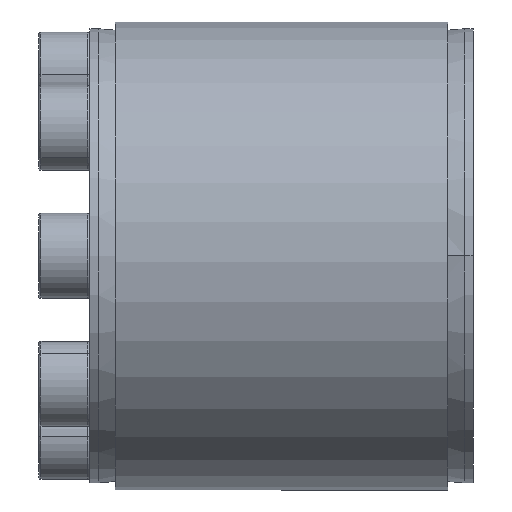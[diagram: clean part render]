
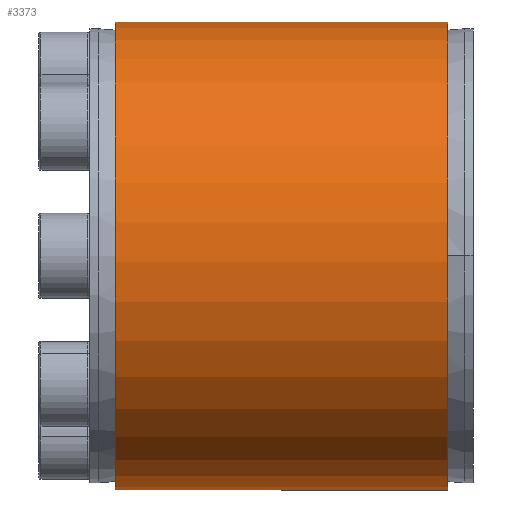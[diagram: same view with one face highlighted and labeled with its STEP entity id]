
A CAD part, front view. The second image highlights one B-rep face of the part: STEP entity #3373.
In plain terms, the highlighted cylindrical face has radius 27.5 mm (diameter 55 mm), a partial arc.
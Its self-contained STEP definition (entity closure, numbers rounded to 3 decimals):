
#30 = CARTESIAN_POINT ( 'NONE',  ( -17.268, -1.5, 27.459 ) ) ;
#105 = EDGE_LOOP ( 'NONE', ( #4963, #4339, #4691, #4796 ) ) ;
#199 = LINE ( 'NONE', #647, #1953 ) ;
#308 = CIRCLE ( 'NONE', #1907, 27.5 ) ;
#330 = CARTESIAN_POINT ( 'NONE',  ( 21.732, 0., 0. ) ) ;
#391 = LINE ( 'NONE', #1139, #511 ) ;
#511 = VECTOR ( 'NONE', #3556, 1000. ) ;
#554 = AXIS2_PLACEMENT_3D ( 'NONE', #2696, #2239, #2381 ) ;
#647 = CARTESIAN_POINT ( 'NONE',  ( -43.29, -1.5, 27.459 ) ) ;
#1139 = CARTESIAN_POINT ( 'NONE',  ( -43.29, 1.5, 27.459 ) ) ;
#1237 = AXIS2_PLACEMENT_3D ( 'NONE', #4476, #4447, #3873 ) ;
#1461 = CARTESIAN_POINT ( 'NONE',  ( 21.732, -1.5, 27.459 ) ) ;
#1796 = EDGE_CURVE ( 'NONE', #6454, #2684, #308, .T. ) ;
#1824 = EDGE_CURVE ( 'NONE', #6454, #2914, #391, .T. ) ;
#1884 = EDGE_CURVE ( 'NONE', #6105, #2684, #199, .T. ) ;
#1907 = AXIS2_PLACEMENT_3D ( 'NONE', #330, #7428, #5234 ) ;
#1910 = EDGE_CURVE ( 'NONE', #2914, #6105, #4857, .T. ) ;
#1953 = VECTOR ( 'NONE', #5004, 1000. ) ;
#2239 = DIRECTION ( 'NONE',  ( -1., 0., 0. ) ) ;
#2381 = DIRECTION ( 'NONE',  ( 0., 0., 1. ) ) ;
#2684 = VERTEX_POINT ( 'NONE', #1461 ) ;
#2696 = CARTESIAN_POINT ( 'NONE',  ( -43.29, 0., 0. ) ) ;
#2914 = VERTEX_POINT ( 'NONE', #4900 ) ;
#2989 = CYLINDRICAL_SURFACE ( 'NONE', #554, 27.5 ) ;
#3373 = ADVANCED_FACE ( 'NONE', ( #7152 ), #2989, .T. ) ;
#3556 = DIRECTION ( 'NONE',  ( -1., 0., 0. ) ) ;
#3873 = DIRECTION ( 'NONE',  ( 0., 0., 1. ) ) ;
#4339 = ORIENTED_EDGE ( 'NONE', *, *, #1796, .T. ) ;
#4447 = DIRECTION ( 'NONE',  ( -1., 0., 0. ) ) ;
#4476 = CARTESIAN_POINT ( 'NONE',  ( -17.268, 0., 0. ) ) ;
#4691 = ORIENTED_EDGE ( 'NONE', *, *, #1884, .F. ) ;
#4796 = ORIENTED_EDGE ( 'NONE', *, *, #1910, .F. ) ;
#4857 = CIRCLE ( 'NONE', #1237, 27.5 ) ;
#4900 = CARTESIAN_POINT ( 'NONE',  ( -17.268, 1.5, 27.459 ) ) ;
#4963 = ORIENTED_EDGE ( 'NONE', *, *, #1824, .F. ) ;
#5004 = DIRECTION ( 'NONE',  ( 1., 0., 0. ) ) ;
#5234 = DIRECTION ( 'NONE',  ( 0., 0., 1. ) ) ;
#5529 = CARTESIAN_POINT ( 'NONE',  ( 21.732, 1.5, 27.459 ) ) ;
#6105 = VERTEX_POINT ( 'NONE', #30 ) ;
#6454 = VERTEX_POINT ( 'NONE', #5529 ) ;
#7152 = FACE_OUTER_BOUND ( 'NONE', #105, .T. ) ;
#7428 = DIRECTION ( 'NONE',  ( -1., 0., 0. ) ) ;
